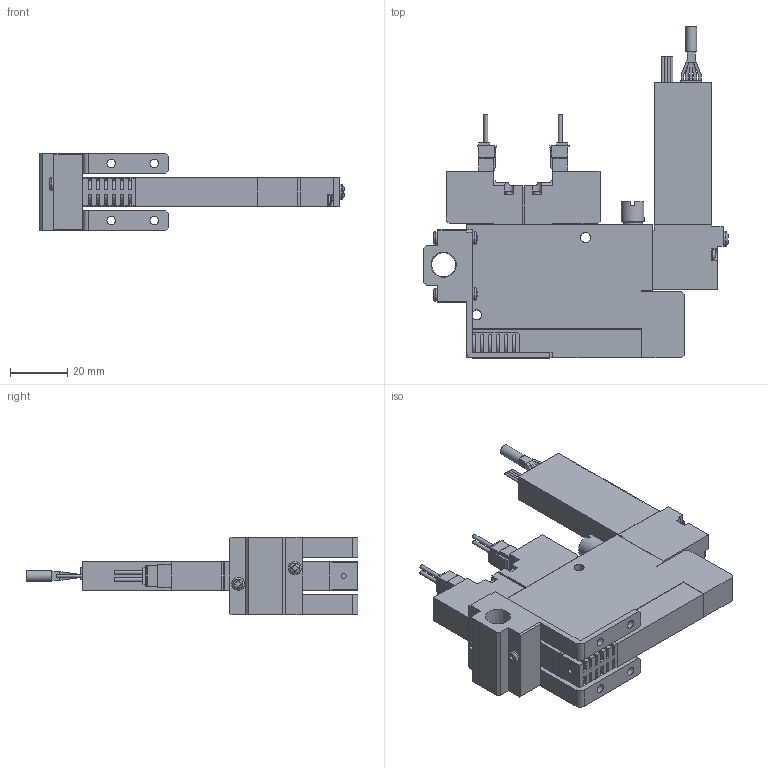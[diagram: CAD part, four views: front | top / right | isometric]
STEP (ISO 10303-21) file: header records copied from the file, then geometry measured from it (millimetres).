
FILE_DESCRIPTION(('STEP AP203'),'1');
FILE_NAME('5SS101_3D.stp','2024-09-04T06:23:28',(' '),(' '),'Spatial InterOp 3D',' ',' ');
FILE_SCHEMA(('CONFIG_CONTROL_DESIGN'));
Length unit declared in the file: millimetre
Products named in the file (5): BSC1M※※10※5SS101; Solenoid valve S; Pressure Sensor 10; Unit-S; BaseMS10R
Assembly tree (4 placements, depth 2):
  BSC1M※※10※5SS101
    Solenoid valve S
    Pressure Sensor 10
    Unit-S
    BaseMS10R
Bounding box: 106.35 x 115.8 x 27 mm (x, y, z)
Volume: 63707.1 mm3; surface area: 26794.1 mm2
Topology: 4 solids, 4 shells, 611 faces, 1668 edges, 1102 vertices
Faces by surface type: plane 443, cylinder 143, sphere 9, torus 9, cone 7
Full cylindrical faces by diameter (mm): 0.9 x4, 1.4 x4, 1.8 x1, 2.5 x2, 3 x8, 3.5 x8, 3.8 x1, 4 x1, 4.134 x2, 4.5 x6, 5.5 x2, 7 x1, 7.7 x1, 8 x1, 8.422 x1
Entity records: 19542 total; most frequent: CARTESIAN_POINT 4027, ORIENTED_EDGE 3148, DIRECTION 3062, EDGE_CURVE 1574, LINE 1196, VECTOR 1196, VERTEX_POINT 1076, AXIS2_PLACEMENT_3D 933
